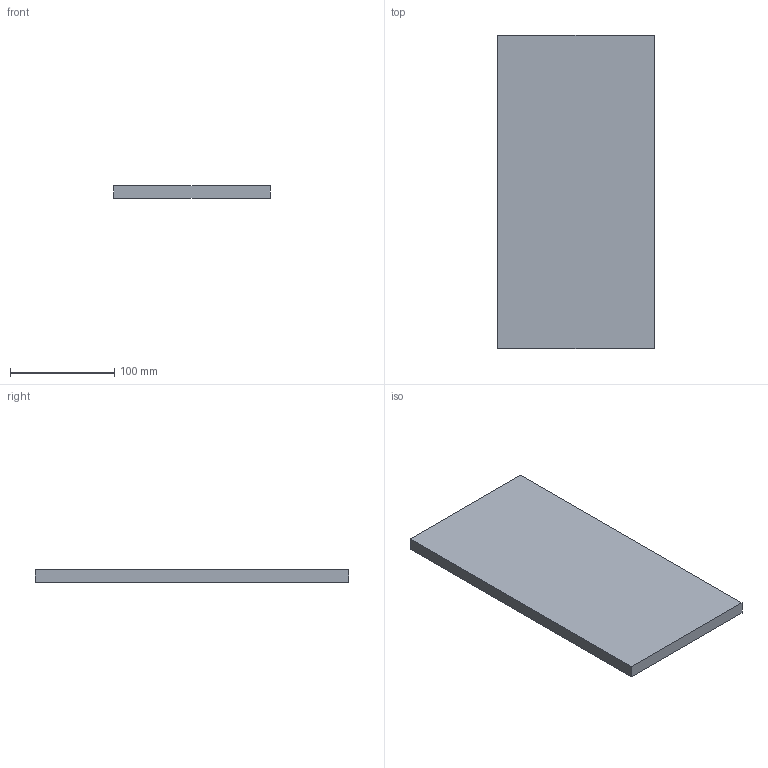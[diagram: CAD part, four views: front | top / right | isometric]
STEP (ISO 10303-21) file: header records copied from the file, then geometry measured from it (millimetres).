
FILE_DESCRIPTION(('Open CASCADE Model'),'2;1');
FILE_NAME('Open CASCADE Shape Model','2026-10-15T15:10:05',('Author'),( 'Open CASCADE'),'Open CASCADE STEP processor 8.0','Open CASCADE 8.0' ,'Unknown');
FILE_SCHEMA(('AUTOMOTIVE_DESIGN { 1 0 10303 214 1 1 1 1 }'));
Length unit declared in the file: millimetre
Products named in the file (1): BRT_COLLAR_150x300x12_P05 166
Bounding box: 150 x 300 x 12 mm (x, y, z)
Volume: 540000 mm3; surface area: 100800 mm2
Topology: 1 solids, 1 shells, 6 faces, 12 edges, 8 vertices
Faces by surface type: plane 6
Entity records: 322 total; most frequent: CARTESIAN_POINT 51, DIRECTION 50, LINE 36, VECTOR 36, ORIENTED_EDGE 24, PCURVE 24, DEFINITIONAL_REPRESENTATION 24, EDGE_CURVE 12
